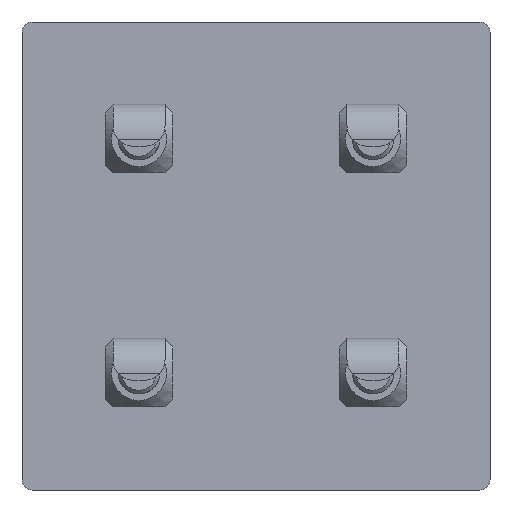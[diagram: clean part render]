
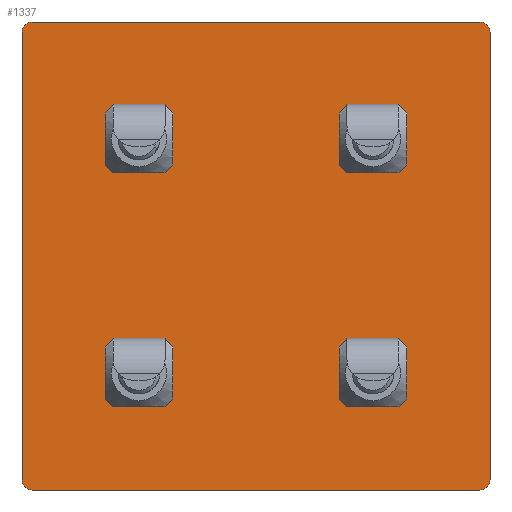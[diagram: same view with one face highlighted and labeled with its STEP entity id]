
A CAD part, front view. The second image highlights one B-rep face of the part: STEP entity #1337.
In plain terms, the highlighted planar face has unit normal (0, -1, 0).
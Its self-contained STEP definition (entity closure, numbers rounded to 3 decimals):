
#21 = VERTEX_POINT ( 'NONE', #8451 ) ;
#22 = VERTEX_POINT ( 'NONE', #4679 ) ;
#73 = VERTEX_POINT ( 'NONE', #3563 ) ;
#84 = EDGE_LOOP ( 'NONE', ( #11099, #2470 ) ) ;
#109 = EDGE_CURVE ( 'NONE', #6595, #22, #11617, .T. ) ;
#321 = EDGE_CURVE ( 'NONE', #6595, #21, #9103, .T. ) ;
#401 = ORIENTED_EDGE ( 'NONE', *, *, #4617, .T. ) ;
#427 = DIRECTION ( 'NONE',  ( 0., 0., 1. ) ) ;
#509 = CARTESIAN_POINT ( 'NONE',  ( -46.851, -4.926, 45.182 ) ) ;
#540 = AXIS2_PLACEMENT_3D ( 'NONE', #5733, #10641, #4765 ) ;
#751 = FACE_BOUND ( 'NONE', #84, .T. ) ;
#783 = DIRECTION ( 'NONE',  ( 0., 1., 0. ) ) ;
#854 = AXIS2_PLACEMENT_3D ( 'NONE', #12042, #1270, #7268 ) ;
#884 = PLANE ( 'NONE',  #4470 ) ;
#946 = FACE_BOUND ( 'NONE', #4333, .T. ) ;
#966 = VERTEX_POINT ( 'NONE', #12000 ) ;
#1139 = CARTESIAN_POINT ( 'NONE',  ( 18.649, -4.926, -26.818 ) ) ;
#1270 = DIRECTION ( 'NONE',  ( 0., 1., 0. ) ) ;
#1337 = ADVANCED_FACE ( 'NONE', ( #751, #2913, #946, #10591, #8545 ), #884, .F. ) ;
#1659 = CARTESIAN_POINT ( 'NONE',  ( 39.149, -4.926, 43.182 ) ) ;
#1761 = VERTEX_POINT ( 'NONE', #4039 ) ;
#1776 = EDGE_LOOP ( 'NONE', ( #10783, #3623, #2669, #8035, #7288, #10733, #9768, #10581 ) ) ;
#1948 = CARTESIAN_POINT ( 'NONE',  ( -3.851, -4.926, 0.182 ) ) ;
#2323 = EDGE_CURVE ( 'NONE', #8840, #8072, #12162, .T. ) ;
#2415 = DIRECTION ( 'NONE',  ( 0., -1., 0. ) ) ;
#2459 = CARTESIAN_POINT ( 'NONE',  ( -26.351, -4.926, 27.182 ) ) ;
#2470 = ORIENTED_EDGE ( 'NONE', *, *, #11581, .T. ) ;
#2542 = VECTOR ( 'NONE', #3317, 1000. ) ;
#2669 = ORIENTED_EDGE ( 'NONE', *, *, #321, .F. ) ;
#2890 = LINE ( 'NONE', #6818, #9830 ) ;
#2913 = FACE_BOUND ( 'NONE', #10368, .T. ) ;
#2963 = VECTOR ( 'NONE', #4095, 1000. ) ;
#3118 = VERTEX_POINT ( 'NONE', #2459 ) ;
#3161 = CARTESIAN_POINT ( 'NONE',  ( 41.149, -4.926, 43.182 ) ) ;
#3224 = DIRECTION ( 'NONE',  ( 0., 0., 1. ) ) ;
#3305 = DIRECTION ( 'NONE',  ( 0., 0., 1. ) ) ;
#3317 = DIRECTION ( 'NONE',  ( 1., 0., 0. ) ) ;
#3501 = VERTEX_POINT ( 'NONE', #509 ) ;
#3563 = CARTESIAN_POINT ( 'NONE',  ( 18.649, -4.926, 18.182 ) ) ;
#3623 = ORIENTED_EDGE ( 'NONE', *, *, #6609, .T. ) ;
#3687 = DIRECTION ( 'NONE',  ( 0., 0., 1. ) ) ;
#3688 = AXIS2_PLACEMENT_3D ( 'NONE', #8703, #6805, #5968 ) ;
#4039 = CARTESIAN_POINT ( 'NONE',  ( -48.851, -4.926, 43.182 ) ) ;
#4077 = AXIS2_PLACEMENT_3D ( 'NONE', #1659, #2415, #8246 ) ;
#4087 = AXIS2_PLACEMENT_3D ( 'NONE', #4554, #9462, #11443 ) ;
#4095 = DIRECTION ( 'NONE',  ( -1., 0., 0. ) ) ;
#4333 = EDGE_LOOP ( 'NONE', ( #9167, #401 ) ) ;
#4353 = DIRECTION ( 'NONE',  ( 0., 0., 1. ) ) ;
#4378 = DIRECTION ( 'NONE',  ( 0., -1., 0. ) ) ;
#4380 = VERTEX_POINT ( 'NONE', #7280 ) ;
#4470 = AXIS2_PLACEMENT_3D ( 'NONE', #1948, #10658, #3687 ) ;
#4518 = DIRECTION ( 'NONE',  ( 0., 0., -1. ) ) ;
#4554 = CARTESIAN_POINT ( 'NONE',  ( -26.351, -4.926, 22.682 ) ) ;
#4617 = EDGE_CURVE ( 'NONE', #73, #966, #7322, .T. ) ;
#4648 = AXIS2_PLACEMENT_3D ( 'NONE', #8516, #4756, #7456 ) ;
#4676 = DIRECTION ( 'NONE',  ( 0., 0., 1. ) ) ;
#4679 = CARTESIAN_POINT ( 'NONE',  ( 39.149, -4.926, 45.182 ) ) ;
#4724 = EDGE_CURVE ( 'NONE', #4380, #1761, #2890, .T. ) ;
#4756 = DIRECTION ( 'NONE',  ( 0., 1., 0. ) ) ;
#4765 = DIRECTION ( 'NONE',  ( 0., 0., 1. ) ) ;
#4785 = VERTEX_POINT ( 'NONE', #12134 ) ;
#5141 = AXIS2_PLACEMENT_3D ( 'NONE', #9920, #6243, #427 ) ;
#5235 = CARTESIAN_POINT ( 'NONE',  ( 39.149, -4.926, -44.818 ) ) ;
#5423 = EDGE_CURVE ( 'NONE', #8072, #8840, #8221, .T. ) ;
#5733 = CARTESIAN_POINT ( 'NONE',  ( 18.649, -4.926, -22.318 ) ) ;
#5968 = DIRECTION ( 'NONE',  ( 0., 0., 1. ) ) ;
#6190 = CARTESIAN_POINT ( 'NONE',  ( 18.649, -4.926, 22.682 ) ) ;
#6243 = DIRECTION ( 'NONE',  ( 0., 1., 0. ) ) ;
#6282 = AXIS2_PLACEMENT_3D ( 'NONE', #6190, #11085, #3224 ) ;
#6294 = EDGE_CURVE ( 'NONE', #3501, #22, #10019, .T. ) ;
#6302 = CARTESIAN_POINT ( 'NONE',  ( -26.351, -4.926, -17.818 ) ) ;
#6407 = ORIENTED_EDGE ( 'NONE', *, *, #9962, .T. ) ;
#6566 = VERTEX_POINT ( 'NONE', #12569 ) ;
#6595 = VERTEX_POINT ( 'NONE', #3161 ) ;
#6609 = EDGE_CURVE ( 'NONE', #12165, #21, #12334, .T. ) ;
#6665 = CARTESIAN_POINT ( 'NONE',  ( 18.649, -4.926, -22.318 ) ) ;
#6786 = CARTESIAN_POINT ( 'NONE',  ( 18.649, -4.926, -17.818 ) ) ;
#6805 = DIRECTION ( 'NONE',  ( 0., -1., 0. ) ) ;
#6818 = CARTESIAN_POINT ( 'NONE',  ( -48.851, -4.926, -44.818 ) ) ;
#7268 = DIRECTION ( 'NONE',  ( 0., 0., 1. ) ) ;
#7280 = CARTESIAN_POINT ( 'NONE',  ( -48.851, -4.926, -42.818 ) ) ;
#7282 = DIRECTION ( 'NONE',  ( 0., -1., 0. ) ) ;
#7288 = ORIENTED_EDGE ( 'NONE', *, *, #6294, .F. ) ;
#7322 = CIRCLE ( 'NONE', #4648, 4.5 ) ;
#7363 = AXIS2_PLACEMENT_3D ( 'NONE', #11130, #8151, #4353 ) ;
#7456 = DIRECTION ( 'NONE',  ( 0., 0., 1. ) ) ;
#7471 = EDGE_CURVE ( 'NONE', #12165, #7737, #9773, .T. ) ;
#7597 = CIRCLE ( 'NONE', #854, 4.5 ) ;
#7737 = VERTEX_POINT ( 'NONE', #11687 ) ;
#7834 = AXIS2_PLACEMENT_3D ( 'NONE', #6665, #783, #4676 ) ;
#8035 = ORIENTED_EDGE ( 'NONE', *, *, #109, .T. ) ;
#8072 = VERTEX_POINT ( 'NONE', #1139 ) ;
#8151 = DIRECTION ( 'NONE',  ( 0., 1., 0. ) ) ;
#8181 = VECTOR ( 'NONE', #4518, 1000. ) ;
#8221 = CIRCLE ( 'NONE', #7834, 4.5 ) ;
#8224 = EDGE_CURVE ( 'NONE', #966, #73, #11777, .T. ) ;
#8246 = DIRECTION ( 'NONE',  ( 0., 0., 1. ) ) ;
#8451 = CARTESIAN_POINT ( 'NONE',  ( 41.149, -4.926, -42.818 ) ) ;
#8516 = CARTESIAN_POINT ( 'NONE',  ( 18.649, -4.926, 22.682 ) ) ;
#8545 = FACE_OUTER_BOUND ( 'NONE', #1776, .T. ) ;
#8703 = CARTESIAN_POINT ( 'NONE',  ( -46.851, -4.926, -42.818 ) ) ;
#8840 = VERTEX_POINT ( 'NONE', #6786 ) ;
#8940 = EDGE_LOOP ( 'NONE', ( #6407, #9480 ) ) ;
#9022 = ORIENTED_EDGE ( 'NONE', *, *, #2323, .T. ) ;
#9063 = CARTESIAN_POINT ( 'NONE',  ( -46.851, -4.926, 43.182 ) ) ;
#9103 = LINE ( 'NONE', #10197, #8181 ) ;
#9150 = EDGE_CURVE ( 'NONE', #6566, #10461, #12226, .T. ) ;
#9167 = ORIENTED_EDGE ( 'NONE', *, *, #8224, .T. ) ;
#9188 = CIRCLE ( 'NONE', #3688, 2. ) ;
#9462 = DIRECTION ( 'NONE',  ( 0., 1., 0. ) ) ;
#9480 = ORIENTED_EDGE ( 'NONE', *, *, #9150, .T. ) ;
#9686 = EDGE_CURVE ( 'NONE', #4380, #7737, #9188, .T. ) ;
#9768 = ORIENTED_EDGE ( 'NONE', *, *, #4724, .F. ) ;
#9773 = LINE ( 'NONE', #11761, #2963 ) ;
#9830 = VECTOR ( 'NONE', #10693, 1000. ) ;
#9920 = CARTESIAN_POINT ( 'NONE',  ( -26.351, -4.926, 22.682 ) ) ;
#9962 = EDGE_CURVE ( 'NONE', #10461, #6566, #7597, .T. ) ;
#9988 = EDGE_CURVE ( 'NONE', #3118, #4785, #10009, .T. ) ;
#10008 = CIRCLE ( 'NONE', #10654, 2. ) ;
#10009 = CIRCLE ( 'NONE', #5141, 4.5 ) ;
#10019 = LINE ( 'NONE', #11051, #2542 ) ;
#10197 = CARTESIAN_POINT ( 'NONE',  ( 41.149, -4.926, 45.182 ) ) ;
#10368 = EDGE_LOOP ( 'NONE', ( #9022, #12431 ) ) ;
#10461 = VERTEX_POINT ( 'NONE', #6302 ) ;
#10581 = ORIENTED_EDGE ( 'NONE', *, *, #9686, .T. ) ;
#10591 = FACE_BOUND ( 'NONE', #8940, .T. ) ;
#10641 = DIRECTION ( 'NONE',  ( 0., 1., 0. ) ) ;
#10654 = AXIS2_PLACEMENT_3D ( 'NONE', #9063, #4378, #3305 ) ;
#10658 = DIRECTION ( 'NONE',  ( 0., 1., 0. ) ) ;
#10693 = DIRECTION ( 'NONE',  ( 0., 0., 1. ) ) ;
#10733 = ORIENTED_EDGE ( 'NONE', *, *, #12182, .T. ) ;
#10783 = ORIENTED_EDGE ( 'NONE', *, *, #7471, .F. ) ;
#11051 = CARTESIAN_POINT ( 'NONE',  ( -48.851, -4.926, 45.182 ) ) ;
#11085 = DIRECTION ( 'NONE',  ( 0., 1., 0. ) ) ;
#11099 = ORIENTED_EDGE ( 'NONE', *, *, #9988, .T. ) ;
#11130 = CARTESIAN_POINT ( 'NONE',  ( -26.351, -4.926, -22.318 ) ) ;
#11443 = DIRECTION ( 'NONE',  ( 0., 0., 1. ) ) ;
#11581 = EDGE_CURVE ( 'NONE', #4785, #3118, #11641, .T. ) ;
#11617 = CIRCLE ( 'NONE', #4077, 2. ) ;
#11641 = CIRCLE ( 'NONE', #4087, 4.5 ) ;
#11687 = CARTESIAN_POINT ( 'NONE',  ( -46.851, -4.926, -44.818 ) ) ;
#11761 = CARTESIAN_POINT ( 'NONE',  ( 41.149, -4.926, -44.818 ) ) ;
#11777 = CIRCLE ( 'NONE', #6282, 4.5 ) ;
#11917 = DIRECTION ( 'NONE',  ( 0., 0., 1. ) ) ;
#11931 = AXIS2_PLACEMENT_3D ( 'NONE', #12174, #7282, #11917 ) ;
#12000 = CARTESIAN_POINT ( 'NONE',  ( 18.649, -4.926, 27.182 ) ) ;
#12042 = CARTESIAN_POINT ( 'NONE',  ( -26.351, -4.926, -22.318 ) ) ;
#12134 = CARTESIAN_POINT ( 'NONE',  ( -26.351, -4.926, 18.182 ) ) ;
#12162 = CIRCLE ( 'NONE', #540, 4.5 ) ;
#12165 = VERTEX_POINT ( 'NONE', #5235 ) ;
#12174 = CARTESIAN_POINT ( 'NONE',  ( 39.149, -4.926, -42.818 ) ) ;
#12182 = EDGE_CURVE ( 'NONE', #3501, #1761, #10008, .T. ) ;
#12226 = CIRCLE ( 'NONE', #7363, 4.5 ) ;
#12334 = CIRCLE ( 'NONE', #11931, 2. ) ;
#12431 = ORIENTED_EDGE ( 'NONE', *, *, #5423, .T. ) ;
#12569 = CARTESIAN_POINT ( 'NONE',  ( -26.351, -4.926, -26.818 ) ) ;
